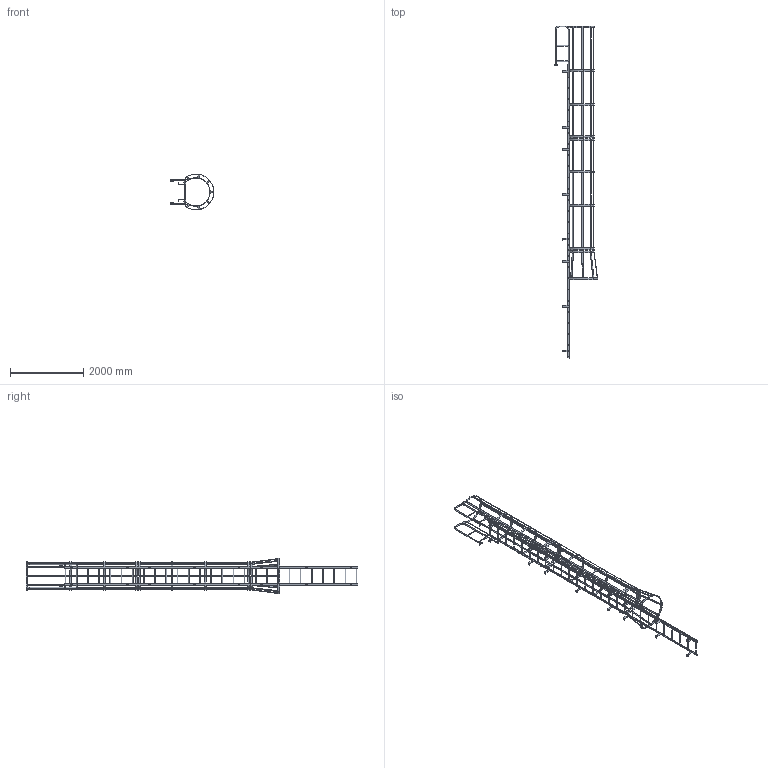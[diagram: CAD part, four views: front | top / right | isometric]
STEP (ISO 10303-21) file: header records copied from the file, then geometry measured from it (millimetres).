
FILE_DESCRIPTION(/* description */ (''),/* implementation_level */ '2;1');
FILE_NAME(/* name */ 'P:\MIKEL & KAREN\D0570196-13 F27WC SIMPLIFIED PART.stp',/* time_stamp */ '2018-07-03T08:20:48-04:00',/* author */ ('stephanie'),/* organization */ (''),/* preprocessor_version */ 'ST-DEVELOPER v16.1',/* originating_system */ 'Autodesk Inventor 2016',/* authorisation */ '');
FILE_SCHEMA (('AUTOMOTIVE_DESIGN { 1 0 10303 214 3 1 1 }'));
Length unit declared in the file: centimetre
Products named in the file (1): D0570196-13 F27WC SIMPLIFIED PART
Bounding box: 1195.62 x 9039.23 x 977.88 mm (x, y, z)
Volume: 30504477.9 mm3; surface area: 11606215.9 mm2
Topology: 36 solids, 36 shells, 1021 faces, 3128 edges, 2032 vertices
Faces by surface type: plane 671, cylinder 342, torus 8
Full cylindrical faces by diameter (mm): 10.319 x4, 14.287 x20, 19.05 x27, 22.098 x10, 22.225 x54, 25.4 x10
Entity records: 35625 total; most frequent: CARTESIAN_POINT 6303, ORIENTED_EDGE 5954, DIRECTION 5795, EDGE_CURVE 2917, LINE 2047, VECTOR 2047, VERTEX_POINT 1954, AXIS2_PLACEMENT_3D 1874
